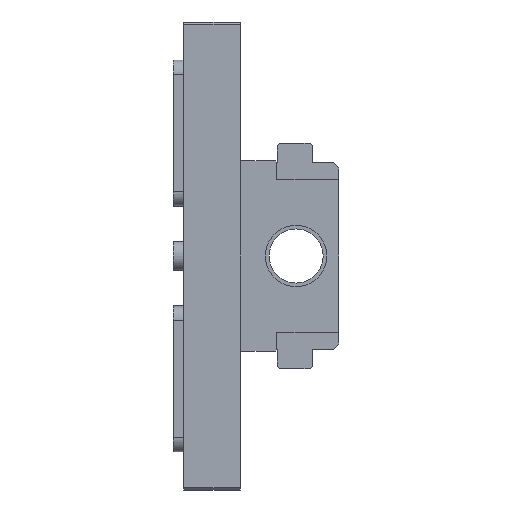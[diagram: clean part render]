
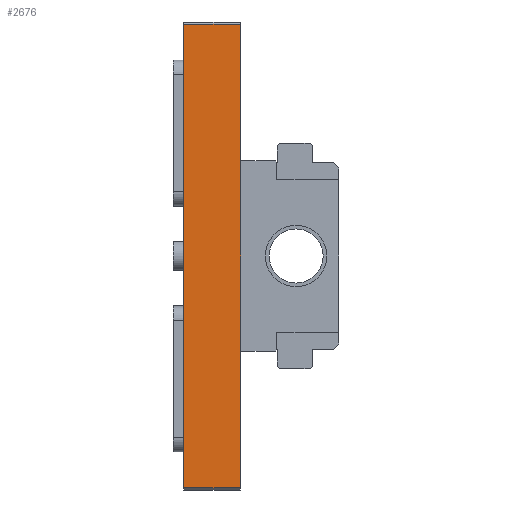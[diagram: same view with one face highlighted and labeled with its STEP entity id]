
A CAD part, left-side view. The second image highlights one B-rep face of the part: STEP entity #2676.
In plain terms, the highlighted planar face has unit normal (-1, 0, 0) as drawn and (0, 0, 1) by its records, which use the part's own axes.
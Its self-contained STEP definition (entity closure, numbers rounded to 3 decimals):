
#139 = CARTESIAN_POINT ( 'NONE',  ( -32.5, 33.6, 28.5 ) ) ;
#147 = CARTESIAN_POINT ( 'NONE',  ( -80., 53., 28.5 ) ) ;
#154 = VERTEX_POINT ( 'NONE', #139 ) ;
#159 = DIRECTION ( 'NONE',  ( 0., 1., 0. ) ) ;
#162 = DIRECTION ( 'NONE',  ( 1., 0., 0. ) ) ;
#233 = PLANE ( 'NONE',  #2402 ) ;
#384 = DIRECTION ( 'NONE',  ( 1., 0., 0. ) ) ;
#494 = CARTESIAN_POINT ( 'NONE',  ( -32.5, 33.6, 28.5 ) ) ;
#495 = CARTESIAN_POINT ( 'NONE',  ( 79.2, 33.6, 28.5 ) ) ;
#509 = DIRECTION ( 'NONE',  ( 1., 0., 0. ) ) ;
#570 = EDGE_CURVE ( 'NONE', #2435, #2459, #2988, .T. ) ;
#598 = ORIENTED_EDGE ( 'NONE', *, *, #2448, .T. ) ;
#639 = EDGE_CURVE ( 'NONE', #3637, #154, #1267, .T. ) ;
#679 = CARTESIAN_POINT ( 'NONE',  ( 32.5, 33.5, 28.5 ) ) ;
#776 = EDGE_CURVE ( 'NONE', #1413, #2435, #2940, .T. ) ;
#841 = VECTOR ( 'NONE', #384, 1000. ) ;
#852 = VERTEX_POINT ( 'NONE', #3579 ) ;
#1069 = LINE ( 'NONE', #2154, #2576 ) ;
#1149 = ORIENTED_EDGE ( 'NONE', *, *, #570, .F. ) ;
#1267 = LINE ( 'NONE', #1468, #1838 ) ;
#1285 = VECTOR ( 'NONE', #1318, 1000. ) ;
#1318 = DIRECTION ( 'NONE',  ( 0., -1., 0. ) ) ;
#1321 = DIRECTION ( 'NONE',  ( 0., 0., 1. ) ) ;
#1339 = CARTESIAN_POINT ( 'NONE',  ( -80., 33.5, 28.5 ) ) ;
#1352 = VECTOR ( 'NONE', #3333, 1000. ) ;
#1412 = CARTESIAN_POINT ( 'NONE',  ( -79.2, 33.6, 28.5 ) ) ;
#1413 = VERTEX_POINT ( 'NONE', #3047 ) ;
#1468 = CARTESIAN_POINT ( 'NONE',  ( -92., 33.6, 28.5 ) ) ;
#1572 = EDGE_CURVE ( 'NONE', #1872, #2459, #2004, .T. ) ;
#1618 = DIRECTION ( 'NONE',  ( 1., 0., 0. ) ) ;
#1838 = VECTOR ( 'NONE', #162, 1000. ) ;
#1872 = VERTEX_POINT ( 'NONE', #2750 ) ;
#1893 = ORIENTED_EDGE ( 'NONE', *, *, #1572, .T. ) ;
#1930 = LINE ( 'NONE', #3686, #2017 ) ;
#1933 = DIRECTION ( 'NONE',  ( 1., 0., 0. ) ) ;
#1942 = LINE ( 'NONE', #494, #1285 ) ;
#1961 = ORIENTED_EDGE ( 'NONE', *, *, #2256, .F. ) ;
#1989 = ORIENTED_EDGE ( 'NONE', *, *, #776, .F. ) ;
#2004 = LINE ( 'NONE', #2056, #3647 ) ;
#2017 = VECTOR ( 'NONE', #3436, 1000. ) ;
#2048 = ORIENTED_EDGE ( 'NONE', *, *, #3442, .T. ) ;
#2056 = CARTESIAN_POINT ( 'NONE',  ( 32.5, 33.6, 28.5 ) ) ;
#2146 = ORIENTED_EDGE ( 'NONE', *, *, #2400, .T. ) ;
#2154 = CARTESIAN_POINT ( 'NONE',  ( -79.2, 53.2, 28.5 ) ) ;
#2256 = EDGE_CURVE ( 'NONE', #3637, #1413, #1069, .T. ) ;
#2264 = ORIENTED_EDGE ( 'NONE', *, *, #639, .T. ) ;
#2400 = EDGE_CURVE ( 'NONE', #154, #852, #1942, .T. ) ;
#2402 = AXIS2_PLACEMENT_3D ( 'NONE', #3080, #1321, #1618 ) ;
#2435 = VERTEX_POINT ( 'NONE', #3664 ) ;
#2448 = EDGE_CURVE ( 'NONE', #852, #3242, #3409, .T. ) ;
#2459 = VERTEX_POINT ( 'NONE', #495 ) ;
#2485 = FACE_OUTER_BOUND ( 'NONE', #3004, .T. ) ;
#2576 = VECTOR ( 'NONE', #159, 1000. ) ;
#2676 = ADVANCED_FACE ( 'NONE', ( #2485 ), #233, .T. ) ;
#2750 = CARTESIAN_POINT ( 'NONE',  ( 32.5, 33.6, 28.5 ) ) ;
#2940 = LINE ( 'NONE', #147, #841 ) ;
#2988 = LINE ( 'NONE', #3414, #1352 ) ;
#3004 = EDGE_LOOP ( 'NONE', ( #2264, #2146, #598, #2048, #1893, #1149, #1989, #1961 ) ) ;
#3047 = CARTESIAN_POINT ( 'NONE',  ( -79.2, 53., 28.5 ) ) ;
#3080 = CARTESIAN_POINT ( 'NONE',  ( -80., 53., 28.5 ) ) ;
#3242 = VERTEX_POINT ( 'NONE', #679 ) ;
#3333 = DIRECTION ( 'NONE',  ( 0., -1., 0. ) ) ;
#3409 = LINE ( 'NONE', #1339, #3499 ) ;
#3414 = CARTESIAN_POINT ( 'NONE',  ( 79.2, 53.2, 28.5 ) ) ;
#3436 = DIRECTION ( 'NONE',  ( 0., 1., 0. ) ) ;
#3442 = EDGE_CURVE ( 'NONE', #3242, #1872, #1930, .T. ) ;
#3499 = VECTOR ( 'NONE', #509, 1000. ) ;
#3579 = CARTESIAN_POINT ( 'NONE',  ( -32.5, 33.5, 28.5 ) ) ;
#3637 = VERTEX_POINT ( 'NONE', #1412 ) ;
#3647 = VECTOR ( 'NONE', #1933, 1000. ) ;
#3664 = CARTESIAN_POINT ( 'NONE',  ( 79.2, 53., 28.5 ) ) ;
#3686 = CARTESIAN_POINT ( 'NONE',  ( 32.5, 33.6, 28.5 ) ) ;
